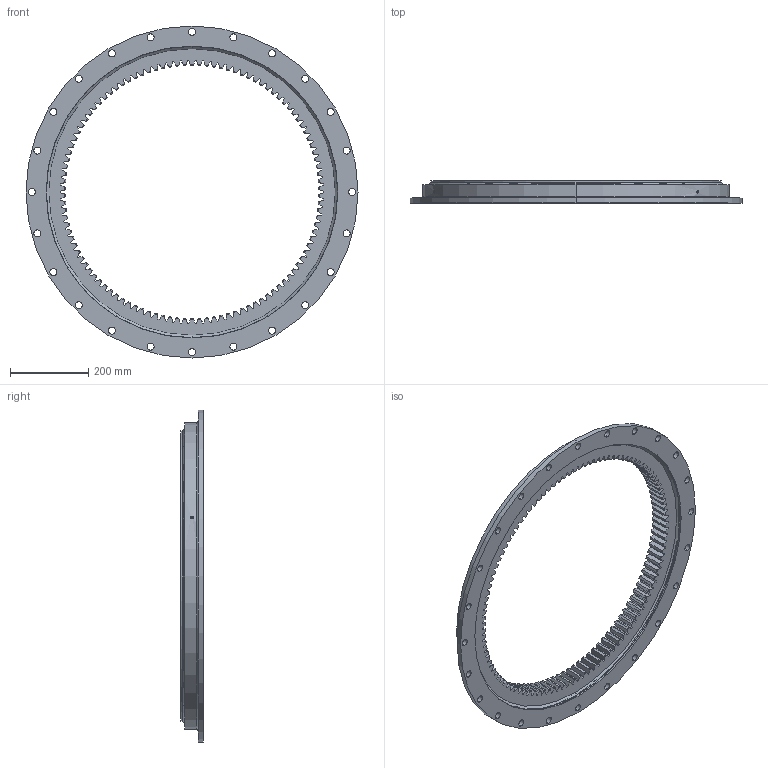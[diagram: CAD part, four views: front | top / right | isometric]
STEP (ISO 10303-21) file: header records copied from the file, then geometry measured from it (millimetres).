
FILE_DESCRIPTION (( 'STEP AP214' ), '1' );
FILE_NAME ('B1120-1-0850AC.STEP', '2022-11-24T06:25:32', ( '' ), ( '' ), 'SwSTEP 2.0', 'SolidWorks 2020', '' );
FILE_SCHEMA (( 'AUTOMOTIVE_DESIGN' ));
Length unit declared in the file: millimetre
Products named in the file (1): B1120-1-0850AC
Bounding box: 850 x 57 x 850 mm (x, y, z)
Volume: 7426759.9 mm3; surface area: 1194628.6 mm2
Topology: 4 solids, 4 shells, 889 faces, 2532 edges, 1639 vertices
Faces by surface type: cone 310, cylinder 231, bspline 220, plane 126, torus 2
Entity records: 30058 total; most frequent: CARTESIAN_POINT 8699, ORIENTED_EDGE 4984, DIRECTION 3669, EDGE_CURVE 2492, VERTEX_POINT 1639, AXIS2_PLACEMENT_3D 1399, EDGE_LOOP 979, B_SPLINE_CURVE_WITH_KNOTS 892
